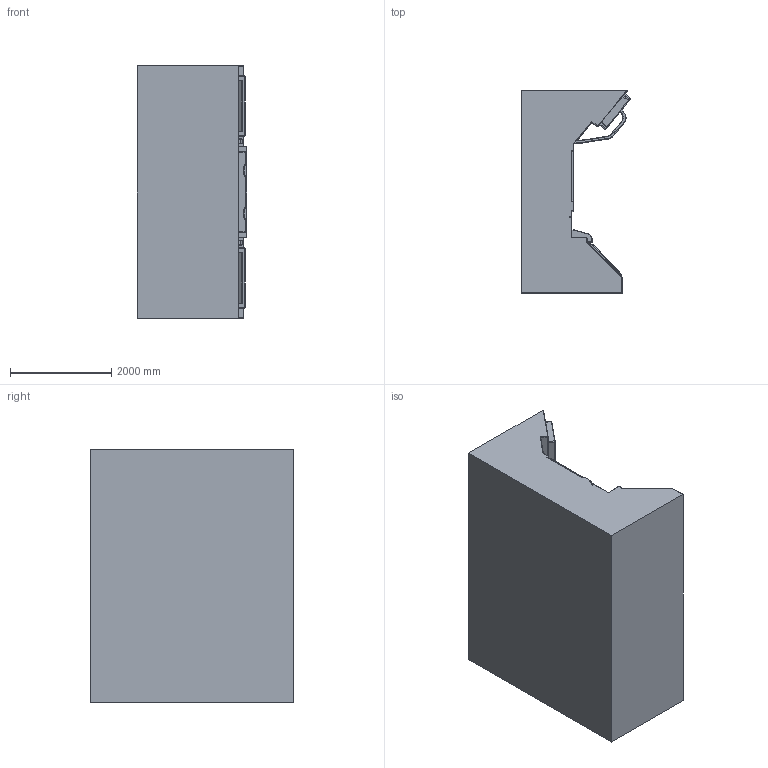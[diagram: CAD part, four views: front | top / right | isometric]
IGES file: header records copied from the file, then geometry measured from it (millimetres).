
Global section: file name: Wall3; native system: unknown; preprocessor: unknown; author: unknown; organization: unknown; date: 20220707.143226; units: centimetre
Bounding box: 2160.46 x 4000 x 5000 mm (x, y, z)
Volume: 27720782704.4 mm3; surface area: 91029077.8 mm2
Topology: 1 solids, 1 shells, 1088 faces, 2722 edges, 1612 vertices
Faces by surface type: bspline 1088
